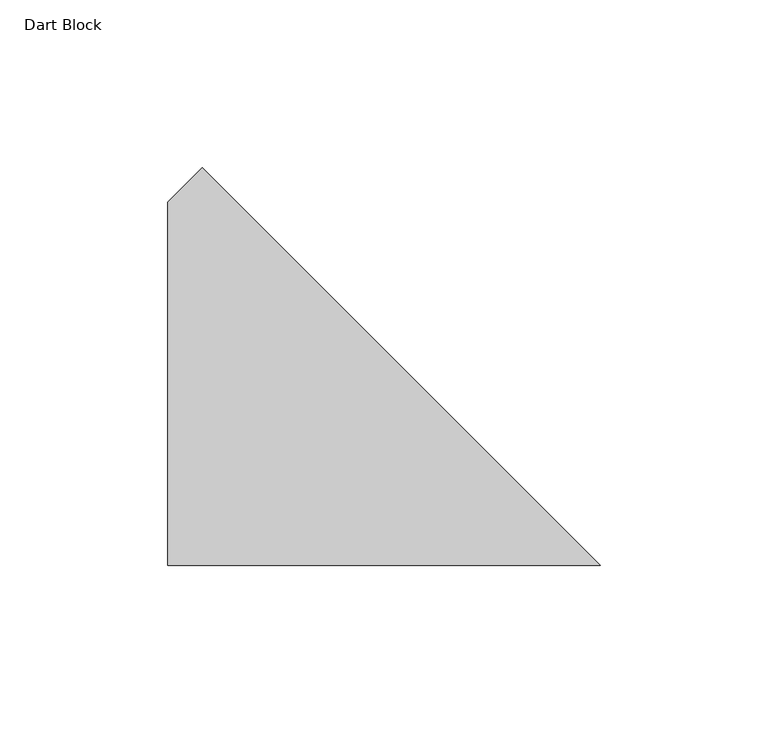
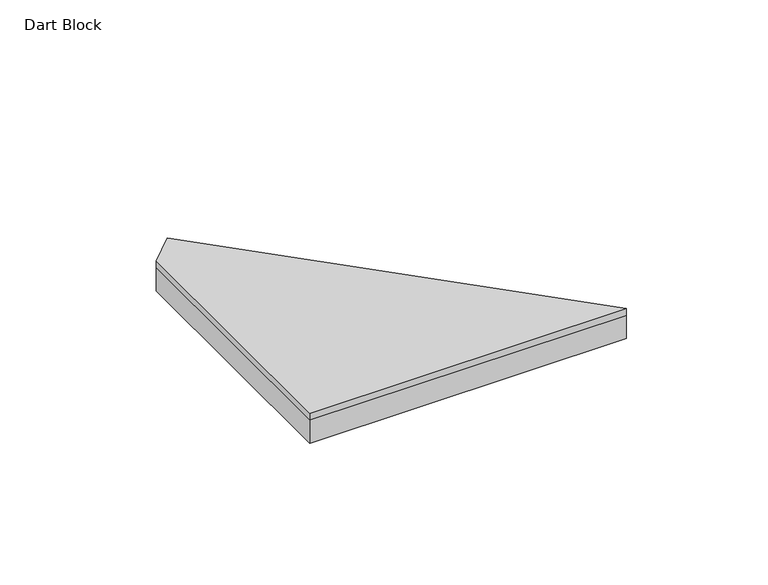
"""IFC4 building model written with IfcOpenShell, lengths in millimetres: proxy geometry, FilzFelt_Dart_Block : Dart Block."""

from ifc_helpers import new_model, si_unit, frame, origin, origin_with_axes, place, context, project, spatial, polyline, outline, extrude, source, transform, mapped, element, save


def dart_block_f4e7f8ae(model_context):
    return source(origin(), model_context, "Body", "SweptSolid", [
        extrude(outline(polyline([(-10.2951413, 180.2048587), (0.0, 190.5), (118.5423284, 71.9576716), (-10.2951413, 71.9576716), (-10.2951413, 180.2048587)])), frame((0.0, 0.0, 10.0210937), z_axis=(0.0, 0.0, 1.0), x_axis=(1.0, 0.0, 0.0)), (0.0, 0.0, 1.0), 2.9765625),
        extrude(outline(polyline([(-10.2951413, 180.2048587), (0.0, 190.5), (118.5423284, 71.9576716), (-10.2951413, 71.9576716), (-10.2951413, 180.2048587)])), origin_with_axes(), (0.0, 0.0, 1.0), 10.0210938),
    ])


if __name__ == "__main__":
    model = new_model("IFC4")
    model_context = context("Model", 3, world=origin())
    ifc_project = project(units=[si_unit("LENGTHUNIT", "METRE", prefix="MILLI")], contexts=[model_context])
    site = spatial("IfcSite", under=ifc_project)
    building = spatial("IfcBuilding", under=site)
    placement = place(None, origin())
    dart_block_shape = dart_block_f4e7f8ae(model_context)
    element("IfcBuildingElementProxy", 1, Name="FilzFelt_Dart_Block : Dart Block", ObjectType="FilzFelt_Dart_Block : Dart Block", at=placement, inside=building, context=model_context, shape_type="MappedRepresentation", body=[
        mapped(dart_block_shape, transform((0.0, 0.0, 0.0), x_axis=(1.0, 0.0, 0.0), y_axis=(0.0, 1.0, 0.0), z_axis=(0.0, 0.0, 1.0))),
    ])
    save(model, "model.ifc")
